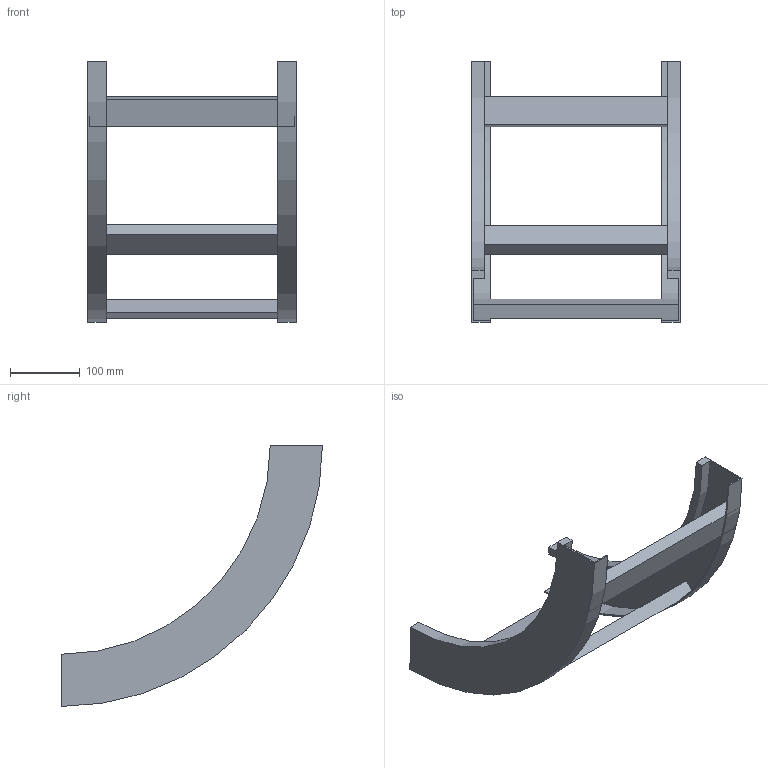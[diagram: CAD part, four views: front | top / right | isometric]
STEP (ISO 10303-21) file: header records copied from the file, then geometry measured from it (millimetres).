
FILE_DESCRIPTION (( 'STEP AP214' ), '1' );
FILE_NAME ('B2X30B3C300XX.step', '2025-03-20T10:25:15', ( '' ), ( '' ), 'SwSTEP 2.0', 'SolidWorks 2023', '' );
FILE_SCHEMA (( 'AUTOMOTIVE_DESIGN' ));
Length unit declared in the file: millimetre
Products named in the file (3): B2_LONGH.SALITA_90°_H75_R300; B2X30B3C300XX; TRAVERSINO_300
Assembly tree (5 placements, depth 2):
  B2X30B3C300XX
    B2_LONGH.SALITA_90°_H75_R300  x2
    TRAVERSINO_300  x3
Bounding box: 300 x 375 x 375 mm (x, y, z)
Volume: 1121645.8 mm3; surface area: 366670.5 mm2
Topology: 5 solids, 5 shells, 38 faces, 84 edges, 56 vertices
Faces by surface type: plane 30, cylinder 8
Entity records: 560 total; most frequent: DIRECTION 92, CARTESIAN_POINT 84, ORIENTED_EDGE 72, EDGE_CURVE 36, AXIS2_PLACEMENT_3D 32, LINE 28, VECTOR 28, VERTEX_POINT 24
